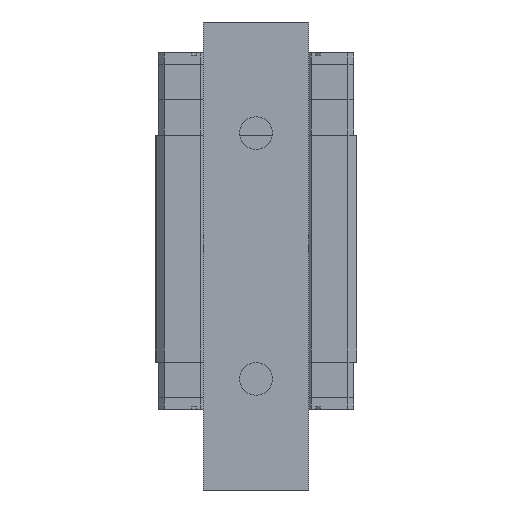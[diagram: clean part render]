
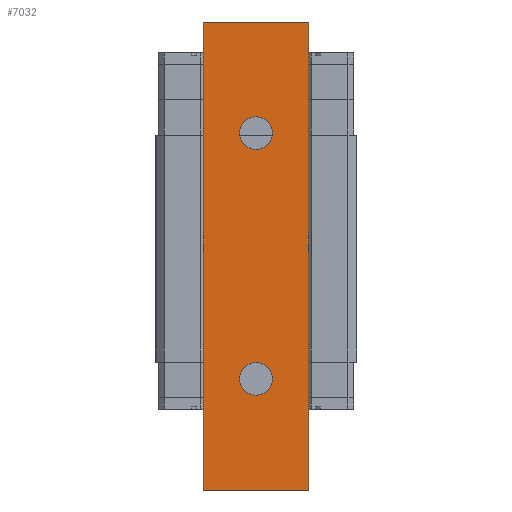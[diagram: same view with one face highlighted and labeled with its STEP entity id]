
A CAD part, front view. The second image highlights one B-rep face of the part: STEP entity #7032.
In plain terms, the highlighted planar face has unit normal (0, -1, 0).
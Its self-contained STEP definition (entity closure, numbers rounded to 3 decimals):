
#87 = CARTESIAN_POINT ( 'NONE',  ( -22.5, -9.5, 100. ) ) ;
#620 = EDGE_CURVE ( 'NONE', #28593, #9358, #2142, .T. ) ;
#898 = ORIENTED_EDGE ( 'NONE', *, *, #15878, .F. ) ;
#1755 = VECTOR ( 'NONE', #13791, 1000. ) ;
#2142 = LINE ( 'NONE', #7102, #1755 ) ;
#2346 = ORIENTED_EDGE ( 'NONE', *, *, #8237, .T. ) ;
#3538 = CARTESIAN_POINT ( 'NONE',  ( 0., -9.5, 52.5 ) ) ;
#3605 = DIRECTION ( 'NONE',  ( 0., 0., -1. ) ) ;
#3680 = EDGE_CURVE ( 'NONE', #10886, #5754, #9383, .T. ) ;
#4350 = CARTESIAN_POINT ( 'NONE',  ( 0., -9.5, -45.5 ) ) ;
#4450 = VERTEX_POINT ( 'NONE', #25960 ) ;
#4563 = FACE_OUTER_BOUND ( 'NONE', #7219, .T. ) ;
#4743 = CIRCLE ( 'NONE', #6181, 7. ) ;
#4838 = VERTEX_POINT ( 'NONE', #4350 ) ;
#5165 = EDGE_LOOP ( 'NONE', ( #898, #23145 ) ) ;
#5754 = VERTEX_POINT ( 'NONE', #9104 ) ;
#6098 = LINE ( 'NONE', #26713, #30181 ) ;
#6181 = AXIS2_PLACEMENT_3D ( 'NONE', #24770, #20202, #22571 ) ;
#6377 = FACE_BOUND ( 'NONE', #12189, .T. ) ;
#7032 = ADVANCED_FACE ( 'NONE', ( #6377, #14104, #4563 ), #24444, .F. ) ;
#7102 = CARTESIAN_POINT ( 'NONE',  ( -22.5, -9.5, 100. ) ) ;
#7219 = EDGE_LOOP ( 'NONE', ( #24678, #2346, #7391, #10300 ) ) ;
#7391 = ORIENTED_EDGE ( 'NONE', *, *, #11633, .F. ) ;
#8237 = EDGE_CURVE ( 'NONE', #4450, #13318, #15421, .T. ) ;
#8380 = DIRECTION ( 'NONE',  ( 0., -1., 0. ) ) ;
#9104 = CARTESIAN_POINT ( 'NONE',  ( 0., -9.5, 45.5 ) ) ;
#9122 = DIRECTION ( 'NONE',  ( 0., 0., -1. ) ) ;
#9279 = DIRECTION ( 'NONE',  ( 1., 0., 0. ) ) ;
#9358 = VERTEX_POINT ( 'NONE', #12289 ) ;
#9383 = CIRCLE ( 'NONE', #14285, 7. ) ;
#10109 = DIRECTION ( 'NONE',  ( 0., 0., 1. ) ) ;
#10300 = ORIENTED_EDGE ( 'NONE', *, *, #620, .F. ) ;
#10377 = DIRECTION ( 'NONE',  ( 0., 0., -1. ) ) ;
#10858 = VERTEX_POINT ( 'NONE', #26840 ) ;
#10886 = VERTEX_POINT ( 'NONE', #17129 ) ;
#11419 = AXIS2_PLACEMENT_3D ( 'NONE', #24643, #8380, #15157 ) ;
#11633 = EDGE_CURVE ( 'NONE', #9358, #13318, #6098, .T. ) ;
#12026 = EDGE_CURVE ( 'NONE', #4838, #10858, #30086, .T. ) ;
#12189 = EDGE_LOOP ( 'NONE', ( #26379, #13163 ) ) ;
#12289 = CARTESIAN_POINT ( 'NONE',  ( 22.5, -9.5, 100. ) ) ;
#12375 = CARTESIAN_POINT ( 'NONE',  ( -22.5, -9.5, 100. ) ) ;
#13163 = ORIENTED_EDGE ( 'NONE', *, *, #12026, .F. ) ;
#13318 = VERTEX_POINT ( 'NONE', #20115 ) ;
#13542 = VECTOR ( 'NONE', #9122, 1000. ) ;
#13791 = DIRECTION ( 'NONE',  ( 1., 0., 0. ) ) ;
#14104 = FACE_BOUND ( 'NONE', #5165, .T. ) ;
#14285 = AXIS2_PLACEMENT_3D ( 'NONE', #3538, #24324, #10377 ) ;
#14695 = VECTOR ( 'NONE', #9279, 1000. ) ;
#15157 = DIRECTION ( 'NONE',  ( 0., 0., -1. ) ) ;
#15421 = LINE ( 'NONE', #23229, #14695 ) ;
#15663 = AXIS2_PLACEMENT_3D ( 'NONE', #18155, #29853, #23020 ) ;
#15878 = EDGE_CURVE ( 'NONE', #5754, #10886, #4743, .T. ) ;
#17129 = CARTESIAN_POINT ( 'NONE',  ( 0., -9.5, 59.5 ) ) ;
#17458 = DIRECTION ( 'NONE',  ( 0., 1., 0. ) ) ;
#18155 = CARTESIAN_POINT ( 'NONE',  ( 0., -9.5, -52.5 ) ) ;
#18631 = CIRCLE ( 'NONE', #11419, 7. ) ;
#19906 = AXIS2_PLACEMENT_3D ( 'NONE', #12375, #17458, #10109 ) ;
#20115 = CARTESIAN_POINT ( 'NONE',  ( 22.5, -9.5, -100. ) ) ;
#20202 = DIRECTION ( 'NONE',  ( 0., -1., 0. ) ) ;
#22571 = DIRECTION ( 'NONE',  ( 0., 0., -1. ) ) ;
#22576 = CARTESIAN_POINT ( 'NONE',  ( -22.5, -9.5, 100. ) ) ;
#23020 = DIRECTION ( 'NONE',  ( 0., 0., -1. ) ) ;
#23145 = ORIENTED_EDGE ( 'NONE', *, *, #3680, .F. ) ;
#23229 = CARTESIAN_POINT ( 'NONE',  ( -22.5, -9.5, -100. ) ) ;
#24324 = DIRECTION ( 'NONE',  ( 0., -1., 0. ) ) ;
#24444 = PLANE ( 'NONE',  #19906 ) ;
#24643 = CARTESIAN_POINT ( 'NONE',  ( 0., -9.5, -52.5 ) ) ;
#24678 = ORIENTED_EDGE ( 'NONE', *, *, #25174, .T. ) ;
#24770 = CARTESIAN_POINT ( 'NONE',  ( 0., -9.5, 52.5 ) ) ;
#25174 = EDGE_CURVE ( 'NONE', #28593, #4450, #30268, .T. ) ;
#25960 = CARTESIAN_POINT ( 'NONE',  ( -22.5, -9.5, -100. ) ) ;
#26379 = ORIENTED_EDGE ( 'NONE', *, *, #28075, .F. ) ;
#26713 = CARTESIAN_POINT ( 'NONE',  ( 22.5, -9.5, 100. ) ) ;
#26840 = CARTESIAN_POINT ( 'NONE',  ( 0., -9.5, -59.5 ) ) ;
#28075 = EDGE_CURVE ( 'NONE', #10858, #4838, #18631, .T. ) ;
#28593 = VERTEX_POINT ( 'NONE', #22576 ) ;
#29853 = DIRECTION ( 'NONE',  ( 0., -1., 0. ) ) ;
#30086 = CIRCLE ( 'NONE', #15663, 7. ) ;
#30181 = VECTOR ( 'NONE', #3605, 1000. ) ;
#30268 = LINE ( 'NONE', #87, #13542 ) ;
